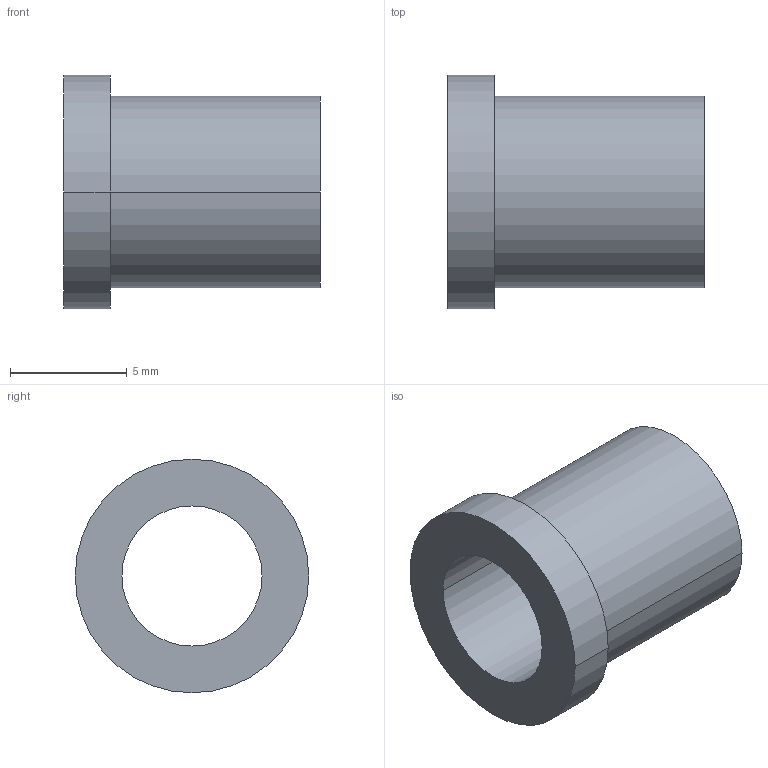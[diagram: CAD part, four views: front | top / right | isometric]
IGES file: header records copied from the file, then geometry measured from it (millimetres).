
Start section: START RECORD GO HERE.
Global section: file name: 15.igs; native system: DASSAULT SYSTEMES CATIA V5 R21 - www.3ds.com; preprocessor: CATIA Version 5 Release 21 ; author: E___; organization: MSI; date: 20160804.141142; units: millimetre
Bounding box: 11 x 10 x 10 mm (x, y, z)
Surface area: 602.6 mm2 (no closed solid volume)
Topology: 0 solids, 0 shells, 9 faces, 36 edges, 36 vertices
Faces by surface type: revolution 6, plane 3
